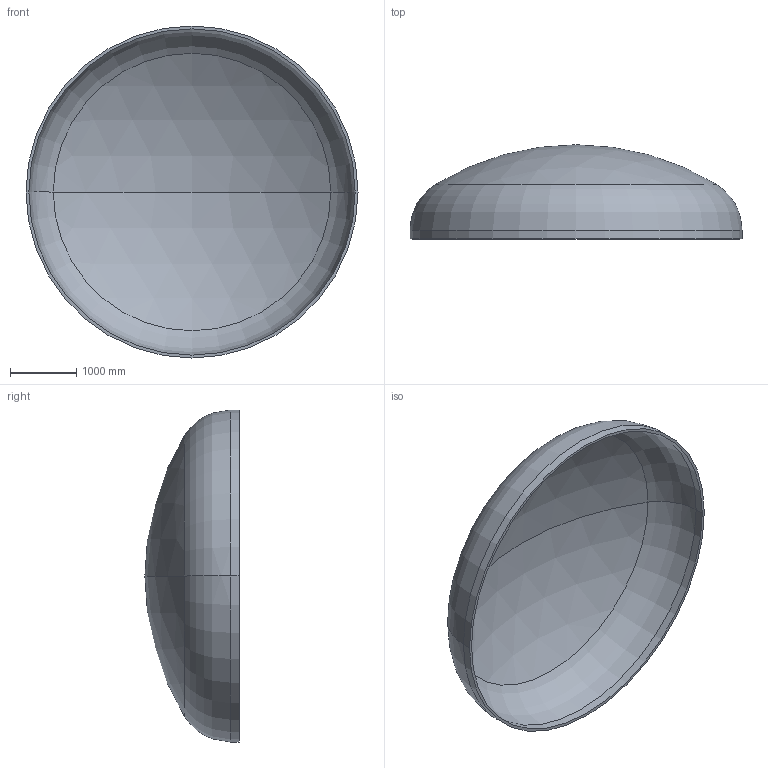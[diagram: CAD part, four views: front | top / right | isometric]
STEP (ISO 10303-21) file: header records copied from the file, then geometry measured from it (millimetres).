
FILE_DESCRIPTION (( 'STEP AP203' ), '1' );
FILE_NAME ('DIN 28013 Korbbogenform_-_Boden DIN 28013 - 5000 x 130 - I - s=43.step', '2016-07-02T00:29:56', ( '' ), ( '' ), 'SwSTEP 2.0', 'SolidWorks 2013', '' );
FILE_SCHEMA (( 'CONFIG_CONTROL_DESIGN' ));
Length unit declared in the file: millimetre
Products named in the file (1): DIN 28013 Korbbogenform_-_Boden DIN 28013 - 5000 x 130 - I - s=43
Bounding box: 5000 x 1418.56 x 5000 mm (x, y, z)
Volume: 1243180532.3 mm3; surface area: 58495834.7 mm2
Topology: 1 solids, 1 shells, 13 faces, 24 edges, 14 vertices
Faces by surface type: torus 4, cylinder 4, sphere 4, plane 1
Entity records: 407 total; most frequent: DIRECTION 72, CARTESIAN_POINT 52, ORIENTED_EDGE 48, AXIS2_PLACEMENT_3D 34, EDGE_CURVE 24, CIRCLE 20, EDGE_LOOP 14, VERTEX_POINT 14
